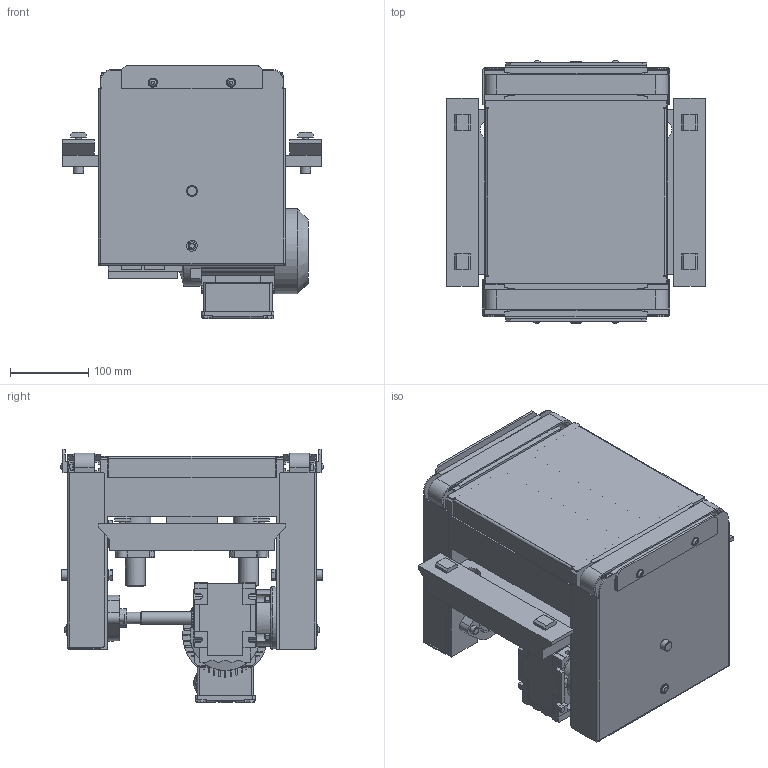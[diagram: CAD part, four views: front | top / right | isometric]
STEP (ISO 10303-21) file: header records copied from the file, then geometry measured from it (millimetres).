
FILE_DESCRIPTION(/* description */ (''),/* implementation_level */ '2;1');
FILE_NAME(/* name */ 'C:\Marketing\01_Versamove-SPU_STEP-Dateien-Homepage\VersamoveStandard\B320\Step-Dateien\Hub-Querförderer_HQZ-2045_B320.stp',/* time_stamp */ '2016-12-19T14:48:07+01:00',/* author */ ('herbert.engels'),/* organization */ (''),/* preprocessor_version */ 'ST-DEVELOPER v15.6',/* originating_system */ 'Autodesk Inventor 2015',/* authorisation */ '');
FILE_SCHEMA (('CONFIG_CONTROL_DESIGN'));
Products named in the file (1): Hub-Querförderer_HQZ-2045_B320
Bounding box: 330 x 335.5 x 323.48 mm (x, y, z)
Volume: 6877648.9 mm3; surface area: 1437080.9 mm2
Topology: 4 solids, 4 shells, 2147 faces, 5956 edges, 3885 vertices
Faces by surface type: plane 1398, cylinder 641, cone 84, torus 12, sphere 12
Full cylindrical faces by diameter (mm): 1.7 x12, 5 x8, 6 x8, 6.5 x2, 8 x8, 8.5 x4, 9 x4, 10 x2, 11.4 x4, 11.8 x4, 12 x6, 13 x14, 13.6 x2, 14 x2, 14.3 x2, 15 x8, 15.2 x4, 16 x6, 23.9 x2, 24 x1, 25 x8, 25.127 x1, 26.5 x2, 29 x2, 31.873 x1, 33.223 x2, 38.158 x1, 39 x1, 40 x2, 50 x1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
Entity records: 69680 total; most frequent: CARTESIAN_POINT 12714, ORIENTED_EDGE 11382, DIRECTION 11296, EDGE_CURVE 5689, LINE 3840, VECTOR 3840, VERTEX_POINT 3804, AXIS2_PLACEMENT_3D 3728
